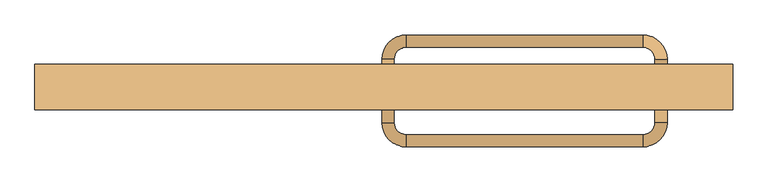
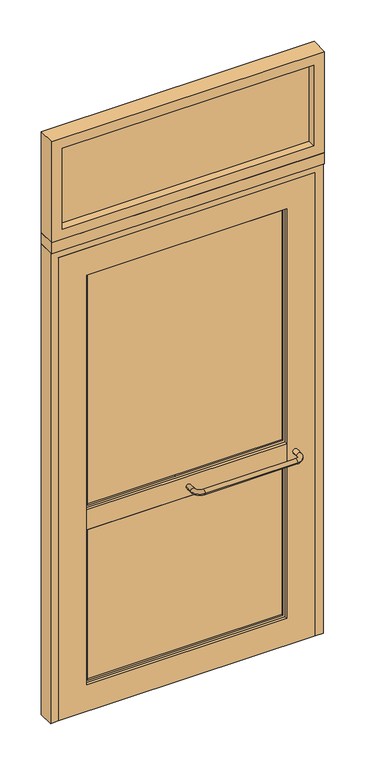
"""IFC4 building model written with IfcOpenShell, lengths in millimetres: door geometry, A3 Puerta batiente exterior VF superior : A3.3 Puerta batiente simple-exterior 115X260."""

from ifc_helpers import new_model, si_unit, point, frame, origin, place, context, project, spatial, polyline, circle_curve, ellipse_curve, trimmed, outline, extrude, source, transform, mapped, element, save
from ifc_brep_helpers import plane_surface, cylinder_surface, revolved_surface, advanced_brep


def door_c8ef6ab0(model_context):
    return source(origin(), model_context, "Body", "SolidModel", [
        advanced_brep(
        [(17.0, 11.0, 855.0), (-3.0, 11.0, 855.0), (17.0, 41.0, 855.0), (-3.0, 41.0, 855.0), (37.0, 61.0, 855.0), (37.0, 81.0, 855.0), (427.0, 61.0, 855.0), (427.0, 81.0, 855.0), (447.0, 41.0, 855.0), (467.0, 41.0, 855.0), (447.0, 11.0, 855.0), (467.0, 11.0, 855.0)],
        [
            (0, 1, circle_curve(frame((7.0, 11.0, 855.0), z_axis=(0.0, -1.0, 0.0), x_axis=(-1.0, 0.0, 0.0)), 10.0)),
            (1, 0, circle_curve(frame((7.0, 11.0, 855.0), z_axis=(0.0, -1.0, 0.0), x_axis=(-1.0, 0.0, 0.0)), 10.0)),
            (0, 2),
            (2, 3, circle_curve(frame((7.0, 41.0, 855.0), z_axis=(0.0, -1.0, 0.0), x_axis=(-1.0, 0.0, 0.0)), 10.0)),
            (3, 1),
            (3, 2, circle_curve(frame((7.0, 41.0, 855.0), z_axis=(0.0, -1.0, 0.0), x_axis=(-1.0, 0.0, 0.0)), 10.0)),
            (4, 5, circle_curve(frame((37.0, 71.0, 855.0), z_axis=(-1.0, 0.0, 0.0), x_axis=(0.0, 1.0, 0.0)), 10.0)),
            (5, 3, circle_curve(frame((37.0, 41.0, 855.0), z_axis=(0.0, 0.0, 1.0), x_axis=(-1.0, 0.0, 0.0)), 40.0)),
            (2, 4, circle_curve(frame((37.0, 41.0, 855.0), z_axis=(0.0, 0.0, -1.0), x_axis=(-1.0, 0.0, 0.0)), 20.0)),
            (5, 4, circle_curve(frame((37.0, 71.0, 855.0), z_axis=(-1.0, 0.0, 0.0), x_axis=(0.0, 1.0, 0.0)), 10.0)),
            (4, 6),
            (6, 7, circle_curve(frame((427.0, 71.0, 855.0), z_axis=(-1.0, 0.0, 0.0), x_axis=(0.0, 1.0, 0.0)), 10.0)),
            (7, 5),
            (7, 6, circle_curve(frame((427.0, 71.0, 855.0), z_axis=(-1.0, 0.0, 0.0), x_axis=(0.0, 1.0, 0.0)), 10.0)),
            (8, 9, circle_curve(frame((457.0, 41.0, 855.0), z_axis=(0.0, 1.0, 0.0), x_axis=(1.0, 0.0, 0.0)), 10.0)),
            (9, 7, circle_curve(frame((427.0, 41.0, 855.0), z_axis=(0.0, 0.0, 1.0), x_axis=(0.0, 1.0, 0.0)), 40.0)),
            (6, 8, circle_curve(frame((427.0, 41.0, 855.0), z_axis=(0.0, 0.0, -1.0), x_axis=(0.0, 1.0, 0.0)), 20.0)),
            (9, 8, circle_curve(frame((457.0, 41.0, 855.0), z_axis=(0.0, 1.0, 0.0), x_axis=(1.0, 0.0, 0.0)), 10.0)),
            (10, 11, circle_curve(frame((457.0, 11.0, 855.0), z_axis=(0.0, -1.0, 0.0), x_axis=(1.0, 0.0, 0.0)), 10.0)),
            (11, 10, circle_curve(frame((457.0, 11.0, 855.0), z_axis=(0.0, -1.0, 0.0), x_axis=(1.0, 0.0, 0.0)), 10.0)),
            (8, 10),
            (11, 9),
        ],
        [
            plane_surface(frame((7.0, 11.0, 855.0), z_axis=(0.0, -1.0, 0.0), x_axis=(0.0, 0.0, 1.0))),
            cylinder_surface(frame((7.0, 11.0, 855.0), z_axis=(0.0, -1.0, 0.0), x_axis=(-1.0, 0.0, 0.0)), 10.0),
            revolved_surface(trimmed(ellipse_curve(frame((7.0, 41.0, 855.0), z_axis=(0.0, 1.0, 0.0), x_axis=(-1.0, 0.0, 0.0)), 10.0, 10.0), [point((-3.0, 41.0, 855.0))], [point((17.0, 41.0, 855.0))], True, "CARTESIAN"), (37.0, 41.0, 855.0), (0.0, 0.0, 1.0)),
            revolved_surface(trimmed(ellipse_curve(frame((7.0, 41.0, 855.0), z_axis=(0.0, 1.0, 0.0), x_axis=(-1.0, 0.0, 0.0)), 10.0, 10.0), [point((17.0, 41.0, 855.0))], [point((-3.0, 41.0, 855.0))], True, "CARTESIAN"), (37.0, 41.0, 855.0), (0.0, 0.0, 1.0)),
            cylinder_surface(frame((37.0, 71.0, 855.0), z_axis=(-1.0, 0.0, 0.0), x_axis=(0.0, 1.0, 0.0)), 10.0),
            revolved_surface(trimmed(ellipse_curve(frame((427.0, 71.0, 855.0), z_axis=(1.0, 0.0, 0.0), x_axis=(0.0, 1.0, 0.0)), 10.0, 10.0), [point((427.0, 81.0, 855.0))], [point((427.0, 61.0, 855.0))], True, "CARTESIAN"), (427.0, 41.0, 855.0), (0.0, 0.0, 1.0)),
            revolved_surface(trimmed(ellipse_curve(frame((427.0, 71.0, 855.0), z_axis=(1.0, 0.0, 0.0), x_axis=(0.0, 1.0, 0.0)), 10.0, 10.0), [point((427.0, 61.0, 855.0))], [point((427.0, 81.0, 855.0))], True, "CARTESIAN"), (427.0, 41.0, 855.0), (0.0, 0.0, 1.0)),
            plane_surface(frame((457.0, 11.0, 855.0), z_axis=(0.0, -1.0, 0.0), x_axis=(0.0, 0.0, 1.0))),
            cylinder_surface(frame((457.0, 41.0, 855.0), z_axis=(0.0, 1.0, 0.0), x_axis=(1.0, 0.0, 0.0)), 10.0),
        ],
        [
            (0, [[1, 2]]),
            (1, [[3, 4, 5, -1]]),
            (1, [[-5, 6, -3, -2]]),
            (2, [[7, 8, -4, 9]]),
            (3, [[10, -9, -6, -8]]),
            (4, [[11, 12, 13, -7]]),
            (4, [[-13, 14, -11, -10]]),
            (5, [[15, 16, -12, 17]]),
            (6, [[18, -17, -14, -16]]),
            (7, [[19, 20]]),
            (8, [[21, -20, 22, -15]]),
            (8, [[-22, -19, -21, -18]]),
        ],
    ),
        advanced_brep(
        [(17.0, -33.0, 855.0), (-3.0, -33.0, 855.0), (-3.0, -63.0, 855.0), (17.0, -63.0, 855.0), (37.0, -83.0, 855.0), (37.0, -103.0, 855.0), (427.0, -103.0, 855.0), (427.0, -83.0, 855.0), (447.0, -63.0, 855.0), (467.0, -63.0, 855.0), (447.0, -33.0, 855.0), (467.0, -33.0, 855.0)],
        [
            (0, 1, circle_curve(frame((7.0, -33.0, 855.0), z_axis=(0.0, 1.0, 0.0), x_axis=(-1.0, 0.0, 0.0)), 10.0)),
            (1, 0, circle_curve(frame((7.0, -33.0, 855.0), z_axis=(0.0, 1.0, 0.0), x_axis=(-1.0, 0.0, 0.0)), 10.0)),
            (1, 2),
            (2, 3, circle_curve(frame((7.0, -63.0, 855.0), z_axis=(0.0, 1.0, 0.0), x_axis=(-1.0, 0.0, 0.0)), 10.0)),
            (3, 0),
            (3, 2, circle_curve(frame((7.0, -63.0, 855.0), z_axis=(0.0, 1.0, 0.0), x_axis=(-1.0, 0.0, 0.0)), 10.0)),
            (4, 3, circle_curve(frame((37.0, -63.0, 855.0), z_axis=(0.0, 0.0, -1.0), x_axis=(-1.0, 0.0, 0.0)), 20.0)),
            (2, 5, circle_curve(frame((37.0, -63.0, 855.0), z_axis=(0.0, 0.0, 1.0), x_axis=(-1.0, 0.0, 0.0)), 40.0)),
            (5, 4, circle_curve(frame((37.0, -93.0, 855.0), z_axis=(-1.0, 0.0, 0.0), x_axis=(0.0, -1.0, 0.0)), 10.0)),
            (4, 5, circle_curve(frame((37.0, -93.0, 855.0), z_axis=(-1.0, 0.0, 0.0), x_axis=(0.0, -1.0, 0.0)), 10.0)),
            (5, 6),
            (6, 7, circle_curve(frame((427.0, -93.0, 855.0), z_axis=(-1.0, 0.0, 0.0), x_axis=(0.0, -1.0, 0.0)), 10.0)),
            (7, 4),
            (7, 6, circle_curve(frame((427.0, -93.0, 855.0), z_axis=(-1.0, 0.0, 0.0), x_axis=(0.0, -1.0, 0.0)), 10.0)),
            (8, 7, circle_curve(frame((427.0, -63.0, 855.0), z_axis=(0.0, 0.0, -1.0), x_axis=(0.0, -1.0, 0.0)), 20.0)),
            (6, 9, circle_curve(frame((427.0, -63.0, 855.0), z_axis=(0.0, 0.0, 1.0), x_axis=(0.0, -1.0, 0.0)), 40.0)),
            (9, 8, circle_curve(frame((457.0, -63.0, 855.0), z_axis=(0.0, -1.0, 0.0), x_axis=(1.0, 0.0, 0.0)), 10.0)),
            (8, 9, circle_curve(frame((457.0, -63.0, 855.0), z_axis=(0.0, -1.0, 0.0), x_axis=(1.0, 0.0, 0.0)), 10.0)),
            (10, 11, circle_curve(frame((457.0, -33.0, 855.0), z_axis=(0.0, 1.0, 0.0), x_axis=(1.0, 0.0, 0.0)), 10.0)),
            (11, 10, circle_curve(frame((457.0, -33.0, 855.0), z_axis=(0.0, 1.0, 0.0), x_axis=(1.0, 0.0, 0.0)), 10.0)),
            (9, 11),
            (10, 8),
        ],
        [
            plane_surface(frame((7.0, -33.0, 855.0), z_axis=(0.0, 1.0, 0.0), x_axis=(0.0, 0.0, 1.0))),
            cylinder_surface(frame((7.0, -33.0, 855.0), z_axis=(0.0, 1.0, 0.0), x_axis=(-1.0, 0.0, 0.0)), 10.0),
            revolved_surface(trimmed(ellipse_curve(frame((7.0, -63.0, 855.0), z_axis=(0.0, 1.0, 0.0), x_axis=(-1.0, 0.0, 0.0)), 10.0, 10.0), [point((-3.0, -63.0, 855.0))], [point((17.0, -63.0, 855.0))], True, "CARTESIAN"), (37.0, -63.0, 855.0), (0.0, 0.0, 1.0)),
            revolved_surface(trimmed(ellipse_curve(frame((7.0, -63.0, 855.0), z_axis=(0.0, 1.0, 0.0), x_axis=(-1.0, 0.0, 0.0)), 10.0, 10.0), [point((17.0, -63.0, 855.0))], [point((-3.0, -63.0, 855.0))], True, "CARTESIAN"), (37.0, -63.0, 855.0), (0.0, 0.0, 1.0)),
            cylinder_surface(frame((37.0, -93.0, 855.0), z_axis=(-1.0, 0.0, 0.0), x_axis=(0.0, -1.0, 0.0)), 10.0),
            revolved_surface(trimmed(ellipse_curve(frame((427.0, -93.0, 855.0), z_axis=(-1.0, 0.0, 0.0), x_axis=(0.0, -1.0, 0.0)), 10.0, 10.0), [point((427.0, -103.0, 855.0))], [point((427.0, -83.0, 855.0))], True, "CARTESIAN"), (427.0, -63.0, 855.0), (0.0, 0.0, 1.0)),
            revolved_surface(trimmed(ellipse_curve(frame((427.0, -93.0, 855.0), z_axis=(-1.0, 0.0, 0.0), x_axis=(0.0, -1.0, 0.0)), 10.0, 10.0), [point((427.0, -83.0, 855.0))], [point((427.0, -103.0, 855.0))], True, "CARTESIAN"), (427.0, -63.0, 855.0), (0.0, 0.0, 1.0)),
            plane_surface(frame((457.0, -33.0, 855.0), z_axis=(0.0, 1.0, 0.0), x_axis=(0.0, 0.0, 1.0))),
            cylinder_surface(frame((457.0, -63.0, 855.0), z_axis=(0.0, -1.0, 0.0), x_axis=(1.0, 0.0, 0.0)), 10.0),
        ],
        [
            (0, [[1, 2]]),
            (1, [[-2, 3, 4, 5]]),
            (1, [[-1, -5, 6, -3]]),
            (2, [[7, -4, 8, 9]]),
            (3, [[-8, -6, -7, 10]]),
            (4, [[-9, 11, 12, 13]]),
            (4, [[-10, -13, 14, -11]]),
            (5, [[15, -12, 16, 17]]),
            (6, [[-16, -14, -15, 18]]),
            (7, [[19, 20]]),
            (8, [[-17, 21, -19, 22]]),
            (8, [[-18, -22, -20, -21]]),
        ],
    ),
        extrude(outline(polyline([(575.0, 33.0), (575.0, -42.0), (-575.0, -42.0), (-575.0, 33.0), (575.0, 33.0)])), frame((0.0, 0.0, 2100.0), z_axis=(0.0, 0.0, 1.0), x_axis=(1.0, 0.0, 0.0)), (0.0, 0.0, 1.0), 50.0),
        extrude(outline(polyline([(2100.0, 575.0), (2100.0, -575.0), (0.0, -575.0), (0.0, -542.0), (2067.0, -542.0), (2067.0, 542.0), (0.0, 542.0), (0.0, 575.0), (2100.0, 575.0)])), frame((0.0, -33.0, 0.0), z_axis=(0.0, 1.0, 0.0), x_axis=(0.0, 0.0, 1.0)), (0.0, 0.0, 1.0), 66.0),
        extrude(outline(polyline([(2067.0, -542.0), (0.0, -542.0), (0.0, 542.0), (2067.0, 542.0), (2067.0, -542.0)]), holes=[polyline([(1947.0, -422.0), (1947.0, 422.0), (120.0, 422.0), (120.0, -422.0), (1947.0, -422.0)])]), frame((0.0, -33.0, 0.0), z_axis=(0.0, 1.0, 0.0), x_axis=(0.0, 0.0, 1.0)), (0.0, 0.0, 1.0), 44.0),
        extrude(outline(polyline([(422.0, 11.0), (422.0, -33.0), (-422.0, -33.0), (-422.0, 11.0), (422.0, 11.0)])), frame((0.0, 0.0, 810.0), z_axis=(0.0, 0.0, 1.0), x_axis=(1.0, 0.0, 0.0)), (0.0, 0.0, 1.0), 90.0),
        extrude(outline(polyline([(1947.0, -422.0), (900.0, -422.0), (900.0, 422.0), (1947.0, 422.0), (1947.0, -422.0)]), holes=[polyline([(1937.0, -412.0), (1937.0, 412.0), (910.0, 412.0), (910.0, -412.0), (1937.0, -412.0)])]), frame((0.0, -21.0, 0.0), z_axis=(0.0, 1.0, 0.0), x_axis=(0.0, 0.0, 1.0)), (0.0, 0.0, 1.0), 20.0),
        extrude(outline(polyline([(810.0, -422.0), (120.0, -422.0), (120.0, 422.0), (810.0, 422.0), (810.0, -422.0)]), holes=[polyline([(800.0, -412.0), (800.0, 412.0), (130.0, 412.0), (130.0, -412.0), (800.0, -412.0)])]), frame((0.0, -21.0, 0.0), z_axis=(0.0, 1.0, 0.0), x_axis=(0.0, 0.0, 1.0)), (0.0, 0.0, 1.0), 20.0),
        extrude(outline(polyline([(412.0, -8.0), (412.0, -14.0), (-412.0, -14.0), (-412.0, -8.0), (412.0, -8.0)])), frame((0.0, 0.0, 910.0), z_axis=(0.0, 0.0, 1.0), x_axis=(1.0, 0.0, 0.0)), (0.0, 0.0, 1.0), 1027.0),
        extrude(outline(polyline([(412.0, -8.0), (412.0, -14.0), (-412.0, -14.0), (-412.0, -8.0), (412.0, -8.0)])), frame((0.0, 0.0, 130.0), z_axis=(0.0, 0.0, 1.0), x_axis=(1.0, 0.0, 0.0)), (0.0, 0.0, 1.0), 670.0),
        extrude(outline(polyline([(530.0, -1.5), (530.0, -7.5), (-530.0, -7.5), (-530.0, -1.5), (530.0, -1.5)])), frame((0.0, 0.0, 2195.0), z_axis=(0.0, 0.0, 1.0), x_axis=(1.0, 0.0, 0.0)), (0.0, 0.0, 1.0), 360.0),
        extrude(outline(polyline([(2600.0, -575.0), (2150.0, -575.0), (2150.0, 575.0), (2600.0, 575.0), (2600.0, -575.0)]), holes=[polyline([(2555.0, -530.0), (2555.0, 530.0), (2195.0, 530.0), (2195.0, -530.0), (2555.0, -530.0)])]), frame((0.0, -42.0, 0.0), z_axis=(0.0, 1.0, 0.0), x_axis=(0.0, 0.0, 1.0)), (0.0, 0.0, 1.0), 75.0),
    ])


if __name__ == "__main__":
    model = new_model("IFC4")
    model_context = context("Model", 3, world=origin())
    ifc_project = project(units=[si_unit("LENGTHUNIT", "METRE", prefix="MILLI")], contexts=[model_context])
    site = spatial("IfcSite", under=ifc_project)
    building = spatial("IfcBuilding", under=site)
    placement = place(None, origin())
    door_shape = door_c8ef6ab0(model_context)
    element("IfcDoor", 1, ObjectType="A3 Puerta batiente exterior VF superior : A3.3 Puerta batiente simple-exterior 115X260", at=placement, inside=building, context=model_context, shape_type="MappedRepresentation", body=[
        mapped(door_shape, transform((0.0, 0.0, 0.0), x_axis=(1.0, 0.0, 0.0), y_axis=(0.0, 1.0, 0.0), z_axis=(0.0, 0.0, 1.0))),
    ])
    save(model, "model.ifc")
